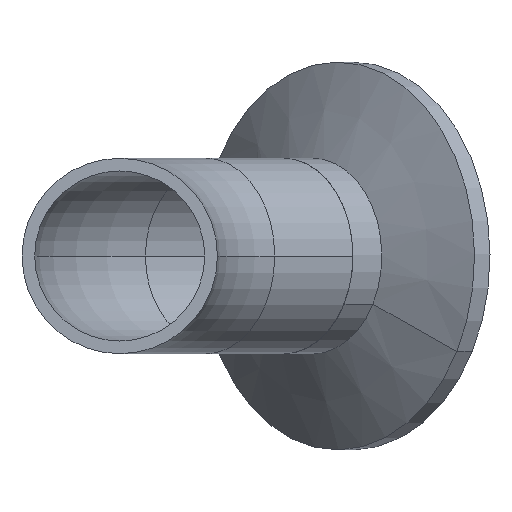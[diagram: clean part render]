
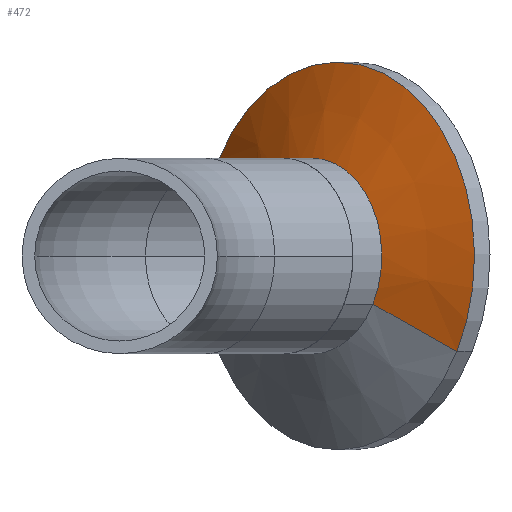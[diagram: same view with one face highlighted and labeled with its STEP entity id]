
A CAD part, front view. The second image highlights one B-rep face of the part: STEP entity #472.
In plain terms, the highlighted conical face has half-angle 70 degrees and reference radius 12.7 mm.
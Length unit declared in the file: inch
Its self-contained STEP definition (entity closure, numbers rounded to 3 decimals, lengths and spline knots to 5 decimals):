
#17 = VECTOR ( 'NONE', #518, 39.37008 ) ;
#42 = AXIS2_PLACEMENT_3D ( 'NONE', #630, #184, #257 ) ;
#72 = VERTEX_POINT ( 'NONE', #515 ) ;
#98 = VERTEX_POINT ( 'NONE', #506 ) ;
#111 = AXIS2_PLACEMENT_3D ( 'NONE', #147, #675, #230 ) ;
#147 = CARTESIAN_POINT ( 'NONE',  ( 1.97394, 2.90082, 2.27886 ) ) ;
#152 = AXIS2_PLACEMENT_3D ( 'NONE', #401, #887, #474 ) ;
#184 = DIRECTION ( 'NONE',  ( 0.707, 0.707, 0. ) ) ;
#230 = DIRECTION ( 'NONE',  ( 0.615, -0.615, -0.492 ) ) ;
#243 = LINE ( 'NONE', #934, #407 ) ;
#245 = CARTESIAN_POINT ( 'NONE',  ( 1.5396, 3.08191, 2.52508 ) ) ;
#257 = DIRECTION ( 'NONE',  ( 0.615, -0.615, -0.492 ) ) ;
#322 = FACE_OUTER_BOUND ( 'NONE', #392, .T. ) ;
#325 = VERTEX_POINT ( 'NONE', #913 ) ;
#326 = EDGE_CURVE ( 'NONE', #98, #325, #730, .T. ) ;
#384 = ORIENTED_EDGE ( 'NONE', *, *, #387, .F. ) ;
#387 = EDGE_CURVE ( 'NONE', #903, #72, #698, .T. ) ;
#392 = EDGE_LOOP ( 'NONE', ( #565, #920, #398, #384 ) ) ;
#398 = ORIENTED_EDGE ( 'NONE', *, *, #549, .T. ) ;
#401 = CARTESIAN_POINT ( 'NONE',  ( 1.84731, 2.77419, 2.27886 ) ) ;
#407 = VECTOR ( 'NONE', #523, 39.37008 ) ;
#457 = CARTESIAN_POINT ( 'NONE',  ( 1.36343, 3.51132, 2.76736 ) ) ;
#472 = ADVANCED_FACE ( 'NONE', ( #322 ), #498, .T. ) ;
#474 = DIRECTION ( 'NONE',  ( 0.615, -0.615, -0.492 ) ) ;
#498 = CONICAL_SURFACE ( 'NONE', #42, 0.5, 1.222 ) ;
#506 = CARTESIAN_POINT ( 'NONE',  ( 1.5396, 3.08191, 2.52508 ) ) ;
#515 = CARTESIAN_POINT ( 'NONE',  ( 2.58444, 2.29031, 1.79036 ) ) ;
#518 = DIRECTION ( 'NONE',  ( -0.336, 0.82, 0.463 ) ) ;
#523 = DIRECTION ( 'NONE',  ( 0.82, -0.336, -0.463 ) ) ;
#540 = EDGE_CURVE ( 'NONE', #98, #903, #619, .T. ) ;
#549 = EDGE_CURVE ( 'NONE', #325, #72, #243, .T. ) ;
#565 = ORIENTED_EDGE ( 'NONE', *, *, #540, .F. ) ;
#619 = LINE ( 'NONE', #245, #17 ) ;
#630 = CARTESIAN_POINT ( 'NONE',  ( 1.84731, 2.77419, 2.27886 ) ) ;
#675 = DIRECTION ( 'NONE',  ( 0.707, 0.707, 0. ) ) ;
#698 = CIRCLE ( 'NONE', #111, 0.992 ) ;
#730 = CIRCLE ( 'NONE', #152, 0.5 ) ;
#887 = DIRECTION ( 'NONE',  ( 0.707, 0.707, 0. ) ) ;
#903 = VERTEX_POINT ( 'NONE', #457 ) ;
#913 = CARTESIAN_POINT ( 'NONE',  ( 2.15503, 2.46648, 2.03264 ) ) ;
#920 = ORIENTED_EDGE ( 'NONE', *, *, #326, .T. ) ;
#934 = CARTESIAN_POINT ( 'NONE',  ( 2.15503, 2.46648, 2.03264 ) ) ;
